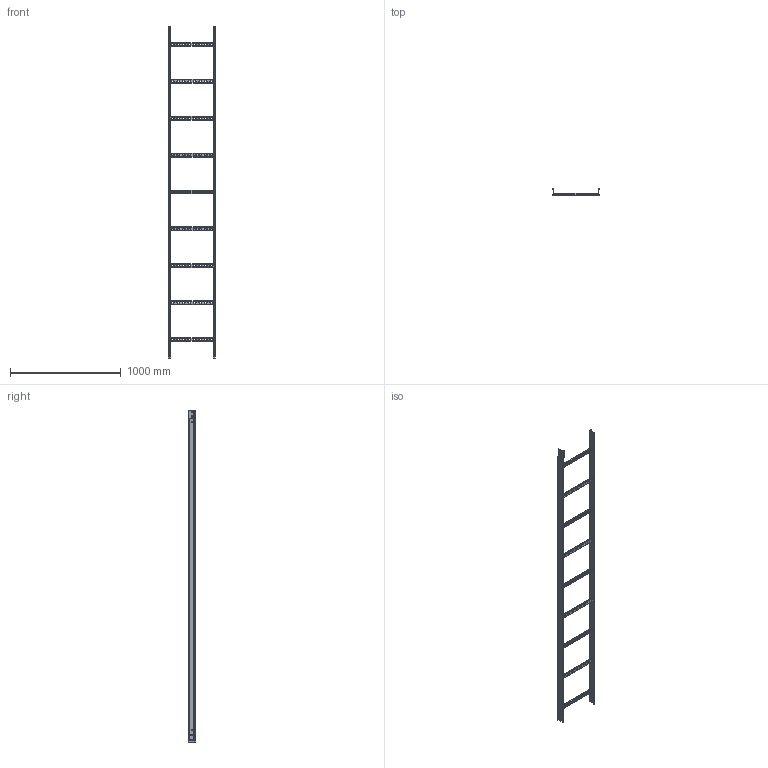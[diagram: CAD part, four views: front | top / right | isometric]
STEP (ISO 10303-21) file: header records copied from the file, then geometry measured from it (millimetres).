
FILE_DESCRIPTION (( 'STEP AP203' ), '1' );
FILE_NAME ('FE trav35 H60-75-100 p333 400x60.step', '2023-07-28T15:28:12', ( '' ), ( '' ), 'SwSTEP 2.0', 'SolidWorks 2022', '' );
FILE_SCHEMA (( 'CONFIG_CONTROL_DESIGN' ));
Length unit declared in the file: millimetre
Products named in the file (3): FE trav35 H60-75-100 p333 400x60; FE_MONTANTE_60x1,5; FE_RA35_400
Assembly tree (11 placements, depth 2):
  FE trav35 H60-75-100 p333 400x60
    FE_MONTANTE_60x1,5  x2
    FE_RA35_400  x9
Bounding box: 432 x 64.5 x 3000 mm (x, y, z)
Volume: 378300.6 mm3; surface area: 1702310.6 mm2
Topology: 9 solids, 13 shells, 882 faces, 2290 edges, 1432 vertices
Faces by surface type: plane 526, cylinder 352, bspline 4
Entity records: 6353 total; most frequent: CARTESIAN_POINT 1378, DIRECTION 959, ORIENTED_EDGE 902, EDGE_CURVE 459, AXIS2_PLACEMENT_3D 337, VERTEX_POINT 296, LINE 285, VECTOR 285
